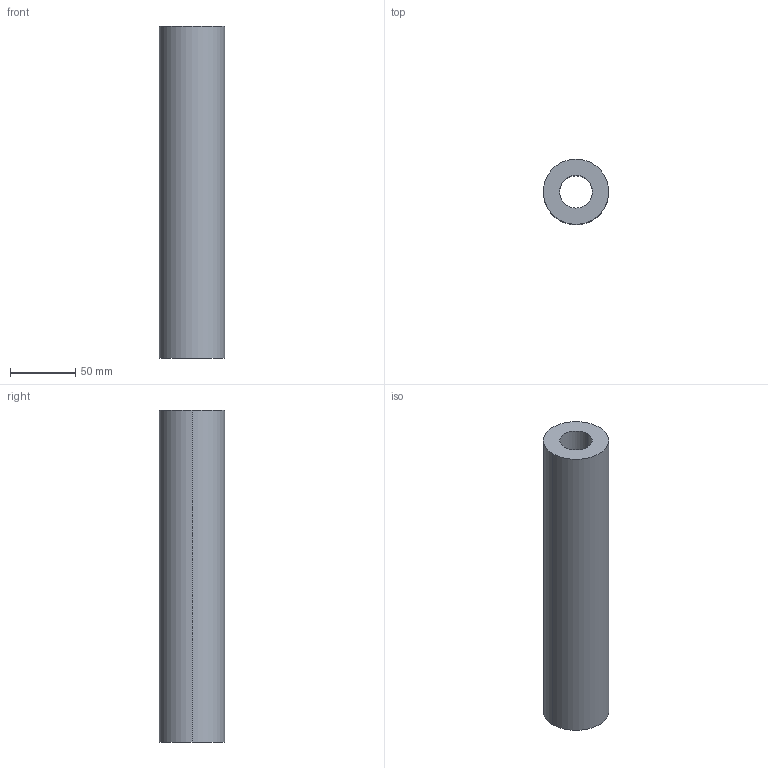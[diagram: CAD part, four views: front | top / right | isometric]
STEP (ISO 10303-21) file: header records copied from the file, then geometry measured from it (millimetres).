
FILE_DESCRIPTION (( 'STEP AP214' ), '1' );
FILE_NAME ('BRV-50X254.STEP', '2020-07-22T11:34:39', ( 'August' ), ( '' ), 'SwSTEP 2.0', 'SolidWorks 2018', '' );
FILE_SCHEMA (( 'AUTOMOTIVE_DESIGN' ));
Length unit declared in the file: millimetre
Products named in the file (1): BRV-50X254
Bounding box: 50 x 50 x 254 mm (x, y, z)
Volume: 374045.9 mm3; surface area: 62792.6 mm2
Topology: 1 solids, 1 shells, 6 faces, 12 edges, 8 vertices
Faces by surface type: cylinder 4, plane 2
Entity records: 202 total; most frequent: DIRECTION 34, CARTESIAN_POINT 27, ORIENTED_EDGE 24, AXIS2_PLACEMENT_3D 15, EDGE_CURVE 12, CIRCLE 8, VERTEX_POINT 8, EDGE_LOOP 8
